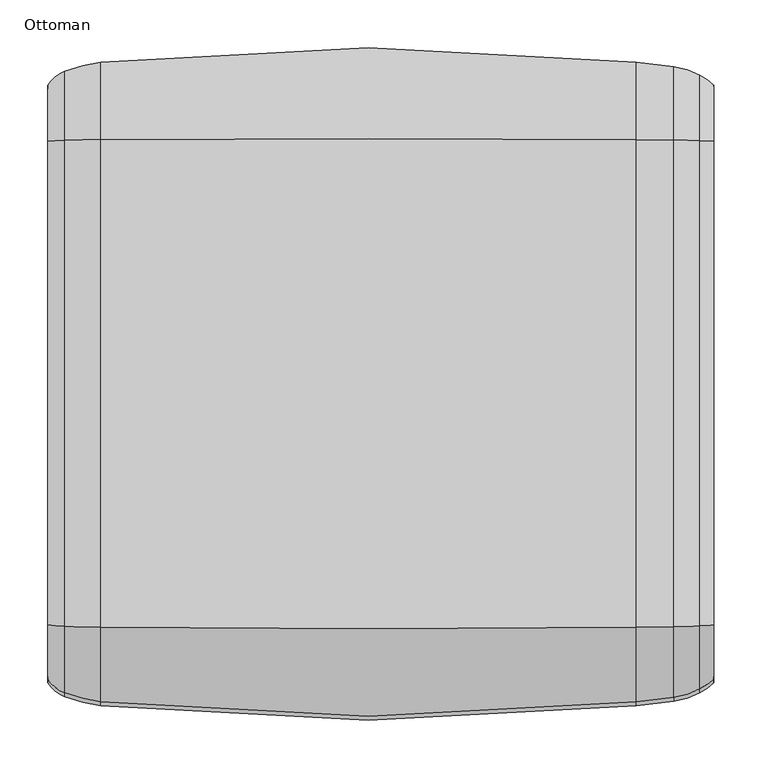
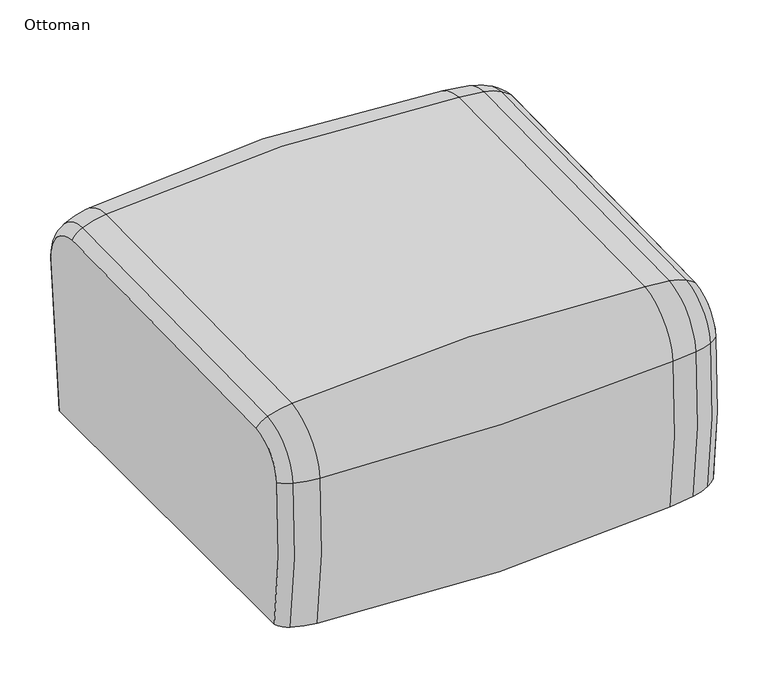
"""IFC4 building model written with IfcOpenShell, lengths in millimetres: furniture geometry, Steelcase Turnstone - Jenny - Seating - Ottoman : Ottoman."""

from ifc_helpers import new_model, si_unit, point, frame, frame_2d, origin, place, context, project, spatial, polyline, circle_curve, ellipse_curve, trimmed, segment, composite_curve, outline, extrude, source, transform, mapped, element, save
from ifc_brep_helpers import plane_surface, revolved_surface, advanced_brep


def ottoman_80099246(model_context):
    return source(origin(), model_context, "Body", "SolidModel", [
        advanced_brep(
        [(-347.3180471, -60.1907076, 90.6970288), (-329.563756, -45.991625, 87.8918056), (-291.9793541, -37.0676597, 86.1287541), (266.8206459, -37.0676597, 86.1287541), (305.9900436, -41.5637741, 87.017023), (333.6398842, -50.3538791, 88.7536286), (347.8818598, -60.1907076, 90.6970288), (347.8818598, -36.4263688, 334.1705603), (-347.3180471, -36.4263688, 334.1705603), (-347.3180471, -649.0439931, 90.6970288), (347.8818598, -649.0439931, 90.6970288), (333.6398842, -658.9394075, 89.0781488), (305.9900436, -667.7818644, 87.6315317), (266.8206459, -672.3047566, 86.8915911), (-291.9793541, -672.3047566, 86.8915911), (-329.563756, -663.3276423, 88.360238), (347.8818598, -656.7737079, 332.4647237), (-347.3180471, -656.7737079, 332.4647237), (347.8818598, -600.2503713, 389.3851276), (-347.3180471, -600.2503713, 389.3851276), (333.6398842, -666.7523238, 333.4481979), (305.9900436, -675.6691289, 334.3270219), (266.8206459, -680.2300501, 334.7765379), (-291.9793541, -680.2300501, 334.7765379), (-329.563756, -671.1774553, 333.8843307), (333.6398842, -601.3036733, 399.3566146), (305.9900436, -602.2448949, 408.2670493), (266.8206459, -602.7263272, 412.824712), (-291.9793541, -602.7263272, 412.824712), (-329.563756, -601.7707722, 403.7785846), (347.8818598, -95.2812287, 397.4713881), (-347.3180471, -95.2812287, 397.4713881), (333.6398842, -94.5477392, 407.4714876), (305.9900436, -93.8922993, 416.4074902), (266.8206459, -93.5570436, 420.9782309), (-291.9793541, -93.5570436, 420.9782309), (-329.563756, -94.2224648, 411.9061462), (333.6398842, -26.3994063, 334.1751466), (305.9900436, -17.4393991, 334.1792448), (266.8206459, -12.8563802, 334.1813411), (-291.9793541, -12.8563802, 334.1813411), (-329.563756, -21.952835, 334.1771804)],
        [
            (0, 1, circle_curve(frame((-316.4440877, -79.5623982, 94.5241715), z_axis=(0.0, -0.1938174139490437, -0.9810376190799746), x_axis=(1.0, 0.0, 0.0)), 36.6484759)),
            (1, 2, circle_curve(frame((-275.6132426, -184.0408813, 115.1653263), z_axis=(0.0, -0.1938174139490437, -0.9810376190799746), x_axis=(1.0, 0.0, 0.0)), 150.7053416)),
            (2, 3, circle_curve(frame((-12.5793541, -2546.1742391, 581.8371133), z_axis=(0.0, -0.1938174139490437, -0.9810376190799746), x_axis=(1.0, 0.0, 0.0)), 2572.8208185)),
            (3, 4, circle_curve(frame((-12.5793541, -2546.1742391, 581.8371133), z_axis=(0.0, -0.1938174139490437, -0.9810376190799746), x_axis=(1.0, 0.0, 0.0)), 2572.8208185)),
            (4, 5, circle_curve(frame((296.4239795, -116.7727069, 101.8755774), z_axis=(0.0, -0.1938174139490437, -0.9810376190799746), x_axis=(1.0, 0.0, 0.0)), 77.2571666)),
            (5, 6, circle_curve(frame((295.7080051, -118.0504987, 102.1280227), z_axis=(0.0, -0.1938174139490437, -0.9810376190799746), x_axis=(1.0, 0.0, 0.0)), 78.7434707)),
            (6, 0),
            (6, 7, circle_curve(frame((347.8818598, -1289.6691714, 333.5973332), z_axis=(1.0, 0.0, 0.0), x_axis=(0.0, 0.9999998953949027, 0.00045739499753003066)), 1253.2429337)),
            (7, 8),
            (8, 0, circle_curve(frame((-347.3180471, -1289.6691714, 333.5973332), z_axis=(-1.0, 0.0, 0.0), x_axis=(0.0, 0.9999998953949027, 0.00045739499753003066)), 1253.2429337)),
            (9, 10),
            (10, 11, circle_curve(frame((295.7080051, -590.8396021, 100.219209), z_axis=(0.0, 0.1614526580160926, -0.9868804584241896), x_axis=(1.0, 0.0, 0.0)), 78.7434707)),
            (11, 12, circle_curve(frame((296.4239795, -592.1250041, 100.0089185), z_axis=(0.0, 0.1614526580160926, -0.9868804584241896), x_axis=(1.0, 0.0, 0.0)), 77.2571666)),
            (12, 13, circle_curve(frame((-12.5793541, 1851.745497, 499.8236934), z_axis=(0.0, 0.1614526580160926, -0.9868804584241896), x_axis=(1.0, 0.0, 0.0)), 2572.8208185)),
            (13, 14, circle_curve(frame((-12.5793541, 1851.745497, 499.8236934), z_axis=(0.0, 0.1614526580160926, -0.9868804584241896), x_axis=(1.0, 0.0, 0.0)), 2572.8208185)),
            (14, 15, circle_curve(frame((-275.6132426, -524.4561956, 111.0794681), z_axis=(0.0, 0.1614526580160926, -0.9868804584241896), x_axis=(1.0, 0.0, 0.0)), 150.7053416)),
            (15, 9, circle_curve(frame((-316.4440877, -629.5569291, 93.885093), z_axis=(0.0, 0.1614526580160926, -0.9868804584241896), x_axis=(1.0, 0.0, 0.0)), 36.6484759)),
            (16, 10, circle_curve(frame((347.8818598, 270.2742299, 241.0965725), z_axis=(1.0, 0.0, 0.0), x_axis=(0.0, -0.9868804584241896, -0.16145265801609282)), 931.5395955)),
            (9, 17, circle_curve(frame((-347.3180471, 270.2742299, 241.0965725), z_axis=(-1.0, 0.0, 0.0), x_axis=(0.0, -0.9868804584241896, -0.16145265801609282)), 931.5395955)),
            (17, 16),
            (18, 16, circle_curve(frame((347.8818598, -593.5798894, 326.2364564), z_axis=(1.0, 0.0, 0.0), x_axis=(0.0, -0.9951782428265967, 0.09808294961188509)), 63.5)),
            (17, 19, circle_curve(frame((-347.3180471, -593.5798894, 326.2364564), z_axis=(-1.0, 0.0, 0.0), x_axis=(0.0, -0.9951782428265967, 0.09808294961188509)), 63.5)),
            (19, 18),
            (20, 11, circle_curve(frame((333.6398842, 270.2742299, 241.0965725), z_axis=(1.0, 0.0, 0.0), x_axis=(0.0, -0.9868804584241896, -0.16145265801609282)), 941.566559)),
            (16, 20, circle_curve(frame((295.7080051, -598.0799288, 326.6799721), z_axis=(0.0, -0.09808294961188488, -0.9951782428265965), x_axis=(1.0, 0.0, 0.0)), 78.7434707)),
            (21, 12, circle_curve(frame((305.9900436, 270.2742299, 241.0965725), z_axis=(1.0, 0.0, 0.0), x_axis=(0.0, -0.9868804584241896, -0.16145265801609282)), 950.5265671)),
            (20, 21, circle_curve(frame((296.4239795, -599.3761386, 326.8077241), z_axis=(0.0, -0.09808294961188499, -0.9951782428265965), x_axis=(1.0, 0.0, 0.0)), 77.2571666)),
            (22, 13, circle_curve(frame((266.8206459, 270.2742299, 241.0965725), z_axis=(1.0, 0.0, 0.0), x_axis=(0.0, -0.9868804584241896, -0.16145265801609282)), 955.1095865)),
            (21, 22, circle_curve(frame((-12.5793541, 1865.0426573, 83.9191096), z_axis=(0.0, -0.09808294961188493, -0.9951782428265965), x_axis=(1.0, 0.0, 0.0)), 2572.8208185)),
            (23, 14, circle_curve(frame((-291.9793541, 270.2742299, 241.0965725), z_axis=(1.0, 0.0, 0.0), x_axis=(0.0, -0.9868804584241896, -0.16145265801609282)), 955.1095865)),
            (22, 23, circle_curve(frame((-12.5793541, 1865.0426573, 83.9191096), z_axis=(0.0, -0.09808294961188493, -0.9951782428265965), x_axis=(1.0, 0.0, 0.0)), 2572.8208185)),
            (24, 15, circle_curve(frame((-329.563756, 270.2742299, 241.0965725), z_axis=(1.0, 0.0, 0.0), x_axis=(0.0, -0.9868804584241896, -0.16145265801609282)), 946.0131308)),
            (23, 24, circle_curve(frame((-275.6132426, -531.1383644, 320.0823338), z_axis=(0.0, -0.09808294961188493, -0.9951782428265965), x_axis=(1.0, 0.0, 0.0)), 150.7053416)),
            (24, 17, circle_curve(frame((-316.4440877, -637.1227947, 330.5279656), z_axis=(0.0, -0.09808294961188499, -0.9951782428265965), x_axis=(1.0, 0.0, 0.0)), 36.6484759)),
            (25, 20, circle_curve(frame((333.6398842, -593.5798894, 326.2364564), z_axis=(1.0, 0.0, 0.0), x_axis=(0.0, -0.9951782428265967, 0.09808294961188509)), 73.5269635)),
            (18, 25, circle_curve(frame((295.7080051, -594.0548953, 330.7332808), z_axis=(0.0, -0.9944672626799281, -0.10504695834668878), x_axis=(1.0000000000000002, 0.0, 0.0)), 78.7434707)),
            (26, 21, circle_curve(frame((305.9900436, -593.5798894, 326.2364564), z_axis=(1.0, 0.0, 0.0), x_axis=(0.0, -0.9951782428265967, 0.09808294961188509)), 82.4869716)),
            (25, 26, circle_curve(frame((296.4239795, -594.1917179, 332.0285646), z_axis=(0.0, -0.9944672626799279, -0.10504695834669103), x_axis=(1.0000000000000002, 0.0, 0.0)), 77.2571666)),
            (27, 22, circle_curve(frame((266.8206459, -593.5798894, 326.2364564), z_axis=(1.0, 0.0, 0.0), x_axis=(0.0, -0.9951782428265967, 0.09808294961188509)), 87.069991)),
            (26, 27, circle_curve(frame((-12.5793541, -334.0577163, -2130.6295891), z_axis=(0.0, -0.9944672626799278, -0.10504695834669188), x_axis=(1.0000000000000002, 0.0, 0.0)), 2572.8208185)),
            (28, 23, circle_curve(frame((-291.9793541, -593.5798894, 326.2364564), z_axis=(1.0, 0.0, 0.0), x_axis=(0.0, -0.9951782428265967, 0.09808294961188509)), 87.069991)),
            (27, 28, circle_curve(frame((-12.5793541, -334.0577163, -2130.6295891), z_axis=(0.0, -0.9944672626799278, -0.10504695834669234), x_axis=(1.0000000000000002, 0.0, 0.0)), 2572.8208185)),
            (29, 24, circle_curve(frame((-329.563756, -593.5798894, 326.2364564), z_axis=(1.0, 0.0, 0.0), x_axis=(0.0, -0.9951782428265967, 0.09808294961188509)), 77.9735353)),
            (28, 29, circle_curve(frame((-275.6132426, -586.9888166, 263.8395411), z_axis=(0.0, -0.9944672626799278, -0.1050469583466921), x_axis=(1.0000000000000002, 0.0, 0.0)), 150.7053416)),
            (29, 19, circle_curve(frame((-316.4440877, -598.176101, 369.7482536), z_axis=(0.0, -0.9944672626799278, -0.10504695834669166), x_axis=(1.0000000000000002, 0.0, 0.0)), 36.6484759)),
            (30, 18, circle_curve(frame((347.8818598, -302.5743357, -2428.6790689), z_axis=(1.0, 0.0, 0.0), x_axis=(0.0, -0.1050469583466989, 0.994467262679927)), 2833.7425497)),
            (19, 31, circle_curve(frame((-347.3180471, -302.5743357, -2428.6790689), z_axis=(-1.0, 0.0, 0.0), x_axis=(0.0, -0.1050469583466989, 0.994467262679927)), 2833.7425497)),
            (31, 30),
            (32, 25, circle_curve(frame((333.6398842, -302.5743357, -2428.6790689), z_axis=(1.0, 0.0, 0.0), x_axis=(0.0, -0.1050469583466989, 0.994467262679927)), 2843.7695132)),
            (30, 32, circle_curve(frame((295.7080051, -99.5955816, 338.6512434), z_axis=(0.0, -0.9973208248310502, 0.07315170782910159), x_axis=(1.0000000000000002, 0.0, 0.0)), 78.7434707)),
            (33, 26, circle_curve(frame((305.9900436, -302.5743357, -2428.6790689), z_axis=(1.0, 0.0, 0.0), x_axis=(0.0, -0.1050469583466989, 0.994467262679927)), 2852.7295213)),
            (32, 33, circle_curve(frame((296.4239795, -99.5003022, 339.950244), z_axis=(0.0, -0.9973208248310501, 0.07315170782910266), x_axis=(1.0000000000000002, 0.0, 0.0)), 77.2571666)),
            (34, 27, circle_curve(frame((266.8206459, -302.5743357, -2428.6790689), z_axis=(1.0, 0.0, 0.0), x_axis=(0.0, -0.1050469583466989, 0.994467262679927)), 2857.3125407)),
            (33, 34, circle_curve(frame((-12.5793541, -280.6502068, -2129.7743546), z_axis=(0.0, -0.9973208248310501, 0.07315170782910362), x_axis=(1.0000000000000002, 0.0, 0.0)), 2572.8208185)),
            (35, 28, circle_curve(frame((-291.9793541, -302.5743357, -2428.6790689), z_axis=(1.0, 0.0, 0.0), x_axis=(0.0, -0.1050469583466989, 0.994467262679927)), 2857.3125407)),
            (34, 35, circle_curve(frame((-12.5793541, -280.6502068, -2129.7743546), z_axis=(0.0, -0.99732082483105, 0.0731517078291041), x_axis=(1.0000000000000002, 0.0, 0.0)), 2572.8208185)),
            (36, 29, circle_curve(frame((-329.563756, -302.5743357, -2428.6790689), z_axis=(1.0, 0.0, 0.0), x_axis=(0.0, -0.1050469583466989, 0.994467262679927)), 2848.2160849)),
            (35, 36, circle_curve(frame((-275.6132426, -104.5161974, 271.5655563), z_axis=(0.0, -0.99732082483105, 0.07315170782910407), x_axis=(1.0000000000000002, 0.0, 0.0)), 150.7053416)),
            (36, 31, circle_curve(frame((-316.4440877, -96.7256914, 377.7781673), z_axis=(0.0, -0.99732082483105, 0.07315170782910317), x_axis=(1.0000000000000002, 0.0, 0.0)), 36.6484759)),
            (7, 30, circle_curve(frame((347.8818598, -99.9263621, 334.1415157), z_axis=(1.0, 0.0, 0.0), x_axis=(0.0, 0.0731517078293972, 0.9973208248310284)), 63.5)),
            (31, 8, circle_curve(frame((-347.3180471, -99.9263621, 334.1415157), z_axis=(-1.0, 0.0, 0.0), x_axis=(0.0, 0.0731517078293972, 0.9973208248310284)), 63.5)),
            (37, 32, circle_curve(frame((333.6398842, -99.9263621, 334.1415157), z_axis=(1.0, 0.0, 0.0), x_axis=(0.0, 0.0731517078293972, 0.9973208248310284)), 73.5269635)),
            (7, 37, circle_curve(frame((295.7080051, -95.40452, 334.143584), z_axis=(0.0, -0.00045739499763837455, 0.9999998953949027), x_axis=(1.0000000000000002, 0.0, 0.0)), 78.7434707)),
            (38, 33, circle_curve(frame((305.9900436, -99.9263621, 334.1415157), z_axis=(1.0, 0.0, 0.0), x_axis=(0.0, 0.0731517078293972, 0.9973208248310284)), 82.4869716)),
            (37, 38, circle_curve(frame((296.4239795, -94.10203, 334.1441797), z_axis=(0.0, -0.0004573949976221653, 0.9999998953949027), x_axis=(1.0000000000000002, 0.0, 0.0)), 77.2571666)),
            (39, 34, circle_curve(frame((266.8206459, -99.9263621, 334.1415157), z_axis=(1.0, 0.0, 0.0), x_axis=(0.0, 0.0731517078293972, 0.9973208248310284)), 87.069991)),
            (38, 39, circle_curve(frame((-12.5793541, -2570.4609696, 333.0115054), z_axis=(0.0, -0.00045739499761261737, 0.9999998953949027), x_axis=(1.0000000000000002, 0.0, 0.0)), 2572.8208185)),
            (40, 35, circle_curve(frame((-291.9793541, -99.9263621, 334.1415157), z_axis=(1.0, 0.0, 0.0), x_axis=(0.0, 0.0731517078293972, 0.9973208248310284)), 87.069991)),
            (39, 40, circle_curve(frame((-12.5793541, -2570.4609696, 333.0115054), z_axis=(0.0, -0.00045739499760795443, 0.9999998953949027), x_axis=(1.0000000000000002, 0.0, 0.0)), 2572.8208185)),
            (41, 36, circle_curve(frame((-329.563756, -99.9263621, 334.1415157), z_axis=(1.0, 0.0, 0.0), x_axis=(0.0, 0.0731517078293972, 0.9973208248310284)), 77.9735353)),
            (40, 41, circle_curve(frame((-275.6132426, -162.6704173, 334.1128169), z_axis=(0.0, -0.00045739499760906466, 0.9999998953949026), x_axis=(1.0000000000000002, 0.0, 0.0)), 150.7053416)),
            (41, 8, circle_curve(frame((-316.4440877, -56.1724908, 334.1615285), z_axis=(0.0, -0.0004573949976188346, 0.9999998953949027), x_axis=(1.0000000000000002, 0.0, 0.0)), 36.6484759)),
            (5, 37, circle_curve(frame((333.6398842, -1289.6691714, 333.5973332), z_axis=(1.0, 0.0, 0.0), x_axis=(0.0, 0.9999998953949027, 0.00045739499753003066)), 1263.2698973)),
            (4, 38, circle_curve(frame((305.9900436, -1289.6691714, 333.5973332), z_axis=(1.0, 0.0, 0.0), x_axis=(0.0, 0.9999998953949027, 0.00045739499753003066)), 1272.2299053)),
            (3, 39, circle_curve(frame((266.8206459, -1289.6691714, 333.5973332), z_axis=(1.0, 0.0, 0.0), x_axis=(0.0, 0.9999998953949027, 0.00045739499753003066)), 1276.8129247)),
            (2, 40, circle_curve(frame((-291.9793541, -1289.6691714, 333.5973332), z_axis=(1.0, 0.0, 0.0), x_axis=(0.0, 0.9999998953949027, 0.00045739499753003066)), 1276.8129247)),
            (1, 41, circle_curve(frame((-329.563756, -1289.6691714, 333.5973332), z_axis=(1.0, 0.0, 0.0), x_axis=(0.0, 0.9999998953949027, 0.00045739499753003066)), 1267.716469)),
        ],
        [
            plane_surface(frame((0.0, -60.1907076, 90.6970288), z_axis=(0.0, -0.1938174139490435, -0.9810376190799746), x_axis=(1.0, 0.0, 0.0))),
            revolved_surface(polyline([(-347.3180471, -36.426368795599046, 334.17056024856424), (347.8818598, -36.426368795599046, 334.17056024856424)]), (0.0, -1289.6691714, 333.5973332), (-1.0, 0.0, 0.0)),
            plane_surface(frame((0.0, -649.0439931, 90.6970288), z_axis=(0.0, 0.1614526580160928, -0.9868804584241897), x_axis=(1.0, 0.0, 0.0))),
            revolved_surface(polyline([(-347.3180471, -649.0439931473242, 90.69702875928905), (347.8818598, -649.0439931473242, 90.69702875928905)]), (0.0, 270.2742299, 241.0965725), (-1.0, 0.0, 0.0)),
            revolved_surface(polyline([(-347.3180471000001, -656.7737078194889, 332.46472370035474), (347.8818598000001, -656.7737078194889, 332.46472370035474)]), (0.0, -593.5798894, 326.2364564), (-1.0000000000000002, 0.0, 0.0)),
            revolved_surface(trimmed(ellipse_curve(frame((295.7080051, -590.8396021, 100.219209), z_axis=(0.0, 0.1614526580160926, -0.9868804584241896), x_axis=(1.0, 0.0, 0.0)), 78.7434707, 78.7434707), [point((347.8818598, -649.0439931, 90.6970288))], [point((333.6398842, -658.9394075, 89.0781488))], True, "CARTESIAN"), (0.0, 270.2742299, 241.0965725), (-1.0, 0.0, 0.0)),
            revolved_surface(trimmed(ellipse_curve(frame((296.4239795, -592.1250041, 100.0089185), z_axis=(0.0, 0.1614526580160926, -0.9868804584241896), x_axis=(1.0, 0.0, 0.0)), 77.2571666, 77.2571666), [point((333.6398842, -658.9394075, 89.0781488))], [point((305.9900436, -667.7818644, 87.6315317))], True, "CARTESIAN"), (0.0, 270.2742299, 241.0965725), (-1.0, 0.0, 0.0)),
            revolved_surface(trimmed(ellipse_curve(frame((-12.5793541, 1851.745497, 499.8236934), z_axis=(0.0, 0.1614526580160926, -0.9868804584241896), x_axis=(1.0, 0.0, 0.0)), 2572.8208185, 2572.8208185), [point((305.9900436, -667.7818644, 87.6315317))], [point((266.8206459, -672.3047566, 86.8915911))], True, "CARTESIAN"), (0.0, 270.2742299, 241.0965725), (-1.0, 0.0, 0.0)),
            revolved_surface(trimmed(ellipse_curve(frame((-12.5793541, 1851.745497, 499.8236934), z_axis=(0.0, 0.1614526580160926, -0.9868804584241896), x_axis=(1.0, 0.0, 0.0)), 2572.8208185, 2572.8208185), [point((266.8206459, -672.3047566, 86.8915911))], [point((-291.9793541, -672.3047566, 86.8915911))], True, "CARTESIAN"), (0.0, 270.2742299, 241.0965725), (-1.0, 0.0, 0.0)),
            revolved_surface(trimmed(ellipse_curve(frame((-275.6132426, -524.4561956, 111.0794681), z_axis=(0.0, 0.1614526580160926, -0.9868804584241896), x_axis=(1.0, 0.0, 0.0)), 150.7053416, 150.7053416), [point((-291.9793541, -672.3047566, 86.8915911))], [point((-329.563756, -663.3276423, 88.360238))], True, "CARTESIAN"), (0.0, 270.2742299, 241.0965725), (-1.0, 0.0, 0.0)),
            revolved_surface(trimmed(ellipse_curve(frame((-316.4440877, -629.5569291, 93.885093), z_axis=(0.0, 0.1614526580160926, -0.9868804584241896), x_axis=(1.0, 0.0, 0.0)), 36.6484759, 36.6484759), [point((-329.563756, -663.3276423, 88.360238))], [point((-347.3180471, -649.0439931, 90.6970288))], True, "CARTESIAN"), (0.0, 270.2742299, 241.0965725), (-1.0, 0.0, 0.0)),
            revolved_surface(trimmed(ellipse_curve(frame((295.7080051, -598.0799288, 326.6799721), z_axis=(0.0, -0.09808294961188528, -0.995178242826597), x_axis=(1.0000000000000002, 0.0, 0.0)), 78.7434707, 78.7434707), [point((347.8818598, -656.7737079, 332.4647237))], [point((333.6398842, -666.7523238, 333.4481979))], True, "CARTESIAN"), (0.0, -593.5798894, 326.2364564), (-1.0000000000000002, 0.0, 0.0)),
            revolved_surface(trimmed(ellipse_curve(frame((296.4239795, -599.3761386, 326.8077241), z_axis=(0.0, -0.09808294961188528, -0.995178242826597), x_axis=(1.0000000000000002, 0.0, 0.0)), 77.2571666, 77.2571666), [point((333.6398842, -666.7523238, 333.4481979))], [point((305.9900436, -675.6691289, 334.3270219))], True, "CARTESIAN"), (0.0, -593.5798894, 326.2364564), (-1.0000000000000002, 0.0, 0.0)),
            revolved_surface(trimmed(ellipse_curve(frame((-12.5793541, 1865.0426573, 83.9191096), z_axis=(0.0, -0.09808294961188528, -0.995178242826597), x_axis=(1.0000000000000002, 0.0, 0.0)), 2572.8208185, 2572.8208185), [point((305.9900436, -675.6691289, 334.3270219))], [point((266.8206459, -680.2300501, 334.7765379))], True, "CARTESIAN"), (0.0, -593.5798894, 326.2364564), (-1.0000000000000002, 0.0, 0.0)),
            revolved_surface(trimmed(ellipse_curve(frame((-12.5793541, 1865.0426573, 83.9191096), z_axis=(0.0, -0.09808294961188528, -0.995178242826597), x_axis=(1.0000000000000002, 0.0, 0.0)), 2572.8208185, 2572.8208185), [point((266.8206459, -680.2300501, 334.7765379))], [point((-291.9793541, -680.2300501, 334.7765379))], True, "CARTESIAN"), (0.0, -593.5798894, 326.2364564), (-1.0000000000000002, 0.0, 0.0)),
            revolved_surface(trimmed(ellipse_curve(frame((-275.6132426, -531.1383644, 320.0823338), z_axis=(0.0, -0.09808294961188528, -0.995178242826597), x_axis=(1.0000000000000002, 0.0, 0.0)), 150.7053416, 150.7053416), [point((-291.9793541, -680.2300501, 334.7765379))], [point((-329.563756, -671.1774553, 333.8843307))], True, "CARTESIAN"), (0.0, -593.5798894, 326.2364564), (-1.0000000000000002, 0.0, 0.0)),
            revolved_surface(trimmed(ellipse_curve(frame((-316.4440877, -637.1227947, 330.5279656), z_axis=(0.0, -0.09808294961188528, -0.995178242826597), x_axis=(1.0000000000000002, 0.0, 0.0)), 36.6484759, 36.6484759), [point((-329.563756, -671.1774553, 333.8843307))], [point((-347.3180471, -656.7737079, 332.4647237))], True, "CARTESIAN"), (0.0, -593.5798894, 326.2364564), (-1.0000000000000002, 0.0, 0.0)),
            revolved_surface(polyline([(-347.3180471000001, -600.2503712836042, 389.3851276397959), (347.8818598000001, -600.2503712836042, 389.3851276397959)]), (0.0, -302.5743357, -2428.6790689), (-1.0000000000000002, 0.0, 0.0)),
            revolved_surface(trimmed(ellipse_curve(frame((295.7080051, -594.0548953, 330.7332808), z_axis=(0.0, -0.9944672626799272, -0.1050469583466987), x_axis=(1.0000000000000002, 0.0, 0.0)), 78.7434707, 78.7434707), [point((347.8818598, -600.2503713, 389.3851276))], [point((333.6398842, -601.3036733, 399.3566146))], True, "CARTESIAN"), (0.0, -302.5743357, -2428.6790689), (-1.0000000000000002, 0.0, 0.0)),
            revolved_surface(trimmed(ellipse_curve(frame((296.4239795, -594.1917179, 332.0285646), z_axis=(0.0, -0.9944672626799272, -0.1050469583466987), x_axis=(1.0000000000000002, 0.0, 0.0)), 77.2571666, 77.2571666), [point((333.6398842, -601.3036733, 399.3566146))], [point((305.9900436, -602.2448949, 408.2670493))], True, "CARTESIAN"), (0.0, -302.5743357, -2428.6790689), (-1.0000000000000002, 0.0, 0.0)),
            revolved_surface(trimmed(ellipse_curve(frame((-12.5793541, -334.0577163, -2130.6295891), z_axis=(0.0, -0.9944672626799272, -0.1050469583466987), x_axis=(1.0000000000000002, 0.0, 0.0)), 2572.8208185, 2572.8208185), [point((305.9900436, -602.2448949, 408.2670493))], [point((266.8206459, -602.7263272, 412.824712))], True, "CARTESIAN"), (0.0, -302.5743357, -2428.6790689), (-1.0000000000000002, 0.0, 0.0)),
            revolved_surface(trimmed(ellipse_curve(frame((-12.5793541, -334.0577163, -2130.6295891), z_axis=(0.0, -0.9944672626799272, -0.1050469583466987), x_axis=(1.0000000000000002, 0.0, 0.0)), 2572.8208185, 2572.8208185), [point((266.8206459, -602.7263272, 412.824712))], [point((-291.9793541, -602.7263272, 412.824712))], True, "CARTESIAN"), (0.0, -302.5743357, -2428.6790689), (-1.0000000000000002, 0.0, 0.0)),
            revolved_surface(trimmed(ellipse_curve(frame((-275.6132426, -586.9888166, 263.8395411), z_axis=(0.0, -0.9944672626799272, -0.1050469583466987), x_axis=(1.0000000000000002, 0.0, 0.0)), 150.7053416, 150.7053416), [point((-291.9793541, -602.7263272, 412.824712))], [point((-329.563756, -601.7707722, 403.7785846))], True, "CARTESIAN"), (0.0, -302.5743357, -2428.6790689), (-1.0000000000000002, 0.0, 0.0)),
            revolved_surface(trimmed(ellipse_curve(frame((-316.4440877, -598.176101, 369.7482536), z_axis=(0.0, -0.9944672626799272, -0.1050469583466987), x_axis=(1.0000000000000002, 0.0, 0.0)), 36.6484759, 36.6484759), [point((-329.563756, -601.7707722, 403.7785846))], [point((-347.3180471, -600.2503713, 389.3851276))], True, "CARTESIAN"), (0.0, -302.5743357, -2428.6790689), (-1.0000000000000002, 0.0, 0.0)),
            revolved_surface(polyline([(-347.3180471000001, -95.28122865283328, 397.4713880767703), (347.8818598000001, -95.28122865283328, 397.4713880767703)]), (0.0, -99.9263621, 334.1415157), (-1.0000000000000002, 0.0, 0.0)),
            revolved_surface(trimmed(ellipse_curve(frame((295.7080051, -99.5955816, 338.6512434), z_axis=(0.0, -0.9973208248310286, 0.07315170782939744), x_axis=(1.0000000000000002, 0.0, 0.0)), 78.7434707, 78.7434707), [point((347.8818598, -95.2812287, 397.4713881))], [point((333.6398842, -94.5477392, 407.4714876))], True, "CARTESIAN"), (0.0, -99.9263621, 334.1415157), (-1.0000000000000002, 0.0, 0.0)),
            revolved_surface(trimmed(ellipse_curve(frame((296.4239795, -99.5003022, 339.950244), z_axis=(0.0, -0.9973208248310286, 0.07315170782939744), x_axis=(1.0000000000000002, 0.0, 0.0)), 77.2571666, 77.2571666), [point((333.6398842, -94.5477392, 407.4714876))], [point((305.9900436, -93.8922993, 416.4074902))], True, "CARTESIAN"), (0.0, -99.9263621, 334.1415157), (-1.0000000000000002, 0.0, 0.0)),
            revolved_surface(trimmed(ellipse_curve(frame((-12.5793541, -280.6502068, -2129.7743546), z_axis=(0.0, -0.9973208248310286, 0.07315170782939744), x_axis=(1.0000000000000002, 0.0, 0.0)), 2572.8208185, 2572.8208185), [point((305.9900436, -93.8922993, 416.4074902))], [point((266.8206459, -93.5570436, 420.9782309))], True, "CARTESIAN"), (0.0, -99.9263621, 334.1415157), (-1.0000000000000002, 0.0, 0.0)),
            revolved_surface(trimmed(ellipse_curve(frame((-12.5793541, -280.6502068, -2129.7743546), z_axis=(0.0, -0.9973208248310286, 0.07315170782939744), x_axis=(1.0000000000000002, 0.0, 0.0)), 2572.8208185, 2572.8208185), [point((266.8206459, -93.5570436, 420.9782309))], [point((-291.9793541, -93.5570436, 420.9782309))], True, "CARTESIAN"), (0.0, -99.9263621, 334.1415157), (-1.0000000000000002, 0.0, 0.0)),
            revolved_surface(trimmed(ellipse_curve(frame((-275.6132426, -104.5161974, 271.5655563), z_axis=(0.0, -0.9973208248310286, 0.07315170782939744), x_axis=(1.0000000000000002, 0.0, 0.0)), 150.7053416, 150.7053416), [point((-291.9793541, -93.5570436, 420.9782309))], [point((-329.563756, -94.2224648, 411.9061462))], True, "CARTESIAN"), (0.0, -99.9263621, 334.1415157), (-1.0000000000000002, 0.0, 0.0)),
            revolved_surface(trimmed(ellipse_curve(frame((-316.4440877, -96.7256914, 377.7781673), z_axis=(0.0, -0.9973208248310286, 0.07315170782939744), x_axis=(1.0000000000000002, 0.0, 0.0)), 36.6484759, 36.6484759), [point((-329.563756, -94.2224648, 411.9061462))], [point((-347.3180471, -95.2812287, 397.4713881))], True, "CARTESIAN"), (0.0, -99.9263621, 334.1415157), (-1.0000000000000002, 0.0, 0.0)),
            revolved_surface(trimmed(ellipse_curve(frame((295.7080051, -95.40452, 334.143584), z_axis=(0.0, -0.0004573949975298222, 0.9999998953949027), x_axis=(1.0, 0.0, 0.0)), 78.7434707, 78.7434707), [point((347.8818598, -36.4263688, 334.1705603))], [point((333.6398842, -26.3994063, 334.1751466))], True, "CARTESIAN"), (0.0, -1289.6691714, 333.5973332), (-1.0, 0.0, 0.0)),
            revolved_surface(trimmed(ellipse_curve(frame((296.4239795, -94.10203, 334.1441797), z_axis=(0.0, -0.0004573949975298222, 0.9999998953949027), x_axis=(1.0, 0.0, 0.0)), 77.2571666, 77.2571666), [point((333.6398842, -26.3994063, 334.1751466))], [point((305.9900436, -17.4393991, 334.1792448))], True, "CARTESIAN"), (0.0, -1289.6691714, 333.5973332), (-1.0, 0.0, 0.0)),
            revolved_surface(trimmed(ellipse_curve(frame((-12.5793541, -2570.4609696, 333.0115054), z_axis=(0.0, -0.0004573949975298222, 0.9999998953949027), x_axis=(1.0, 0.0, 0.0)), 2572.8208185, 2572.8208185), [point((305.9900436, -17.4393991, 334.1792448))], [point((266.8206459, -12.8563802, 334.1813411))], True, "CARTESIAN"), (0.0, -1289.6691714, 333.5973332), (-1.0, 0.0, 0.0)),
            revolved_surface(trimmed(ellipse_curve(frame((-12.5793541, -2570.4609696, 333.0115054), z_axis=(0.0, -0.0004573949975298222, 0.9999998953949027), x_axis=(1.0, 0.0, 0.0)), 2572.8208185, 2572.8208185), [point((266.8206459, -12.8563802, 334.1813411))], [point((-291.9793541, -12.8563802, 334.1813411))], True, "CARTESIAN"), (0.0, -1289.6691714, 333.5973332), (-1.0, 0.0, 0.0)),
            revolved_surface(trimmed(ellipse_curve(frame((-275.6132426, -162.6704173, 334.1128169), z_axis=(0.0, -0.0004573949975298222, 0.9999998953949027), x_axis=(1.0, 0.0, 0.0)), 150.7053416, 150.7053416), [point((-291.9793541, -12.8563802, 334.1813411))], [point((-329.563756, -21.952835, 334.1771804))], True, "CARTESIAN"), (0.0, -1289.6691714, 333.5973332), (-1.0, 0.0, 0.0)),
            revolved_surface(trimmed(ellipse_curve(frame((-316.4440877, -56.1724908, 334.1615285), z_axis=(0.0, -0.0004573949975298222, 0.9999998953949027), x_axis=(1.0, 0.0, 0.0)), 36.6484759, 36.6484759), [point((-329.563756, -21.952835, 334.1771804))], [point((-347.3180471, -36.4263688, 334.1705603))], True, "CARTESIAN"), (0.0, -1289.6691714, 333.5973332), (-1.0, 0.0, 0.0)),
        ],
        [
            (0, [[1, 2, 3, 4, 5, 6, 7]]),
            (1, [[8, 9, 10, -7]]),
            (2, [[11, 12, 13, 14, 15, 16, 17]]),
            (3, [[18, -11, 19, 20]]),
            (4, [[21, -20, 22, 23]]),
            (5, [[24, -12, -18, 25]]),
            (6, [[26, -13, -24, 27]]),
            (7, [[28, -14, -26, 29]]),
            (8, [[30, -15, -28, 31]]),
            (9, [[32, -16, -30, 33]]),
            (10, [[-19, -17, -32, 34]]),
            (11, [[35, -25, -21, 36]]),
            (12, [[37, -27, -35, 38]]),
            (13, [[39, -29, -37, 40]]),
            (14, [[41, -31, -39, 42]]),
            (15, [[43, -33, -41, 44]]),
            (16, [[-22, -34, -43, 45]]),
            (17, [[46, -23, 47, 48]]),
            (18, [[49, -36, -46, 50]]),
            (19, [[51, -38, -49, 52]]),
            (20, [[53, -40, -51, 54]]),
            (21, [[55, -42, -53, 56]]),
            (22, [[57, -44, -55, 58]]),
            (23, [[-47, -45, -57, 59]]),
            (24, [[60, -48, 61, -9]]),
            (25, [[62, -50, -60, 63]]),
            (26, [[64, -52, -62, 65]]),
            (27, [[66, -54, -64, 67]]),
            (28, [[68, -56, -66, 69]]),
            (29, [[70, -58, -68, 71]]),
            (30, [[-61, -59, -70, 72]]),
            (31, [[73, -63, -8, -6]]),
            (32, [[74, -65, -73, -5]]),
            (33, [[75, -67, -74, -4]]),
            (34, [[76, -69, -75, -3]]),
            (35, [[77, -71, -76, -2]]),
            (36, [[-10, -72, -77, -1]]),
        ],
    ),
        extrude(outline(composite_curve([segment(trimmed(circle_curve(frame_2d((270.2742299, 241.0965725)), 931.5395955), [point((-649.0439931, 90.6970288))], [point((-656.7737079, 332.4647237))], False, "CARTESIAN"), True, "CONTINUOUS"), segment(trimmed(circle_curve(frame_2d((-593.5798894, 326.2364564)), 63.5), [point((-656.7737079, 332.4647237))], [point((-600.2503713, 389.3851276))], False, "CARTESIAN"), True, "CONTINUOUS"), segment(trimmed(circle_curve(frame_2d((-302.5743357, -2428.6790689)), 2833.7425497), [point((-600.2503713, 389.3851276))], [point((-95.2812287, 397.4713881))], False, "CARTESIAN"), True, "CONTINUOUS"), segment(trimmed(circle_curve(frame_2d((-99.9263621, 334.1415157)), 63.5), [point((-95.2812287, 397.4713881))], [point((-36.4263688, 334.1705603))], False, "CARTESIAN"), True, "CONTINUOUS"), segment(trimmed(circle_curve(frame_2d((-1289.6691714, 333.5973332)), 1253.2429337), [point((-36.4263688, 334.1705603))], [point((-60.1907076, 90.6970288))], False, "CARTESIAN"), True, "CONTINUOUS"), segment(polyline([(-60.1907076, 90.6970288), (-649.0439931, 90.6970288)]), True, "CONTINUOUS")], self_intersect=False)), frame((-347.3180471, 0.0, 0.0), z_axis=(1.0, 0.0, 0.0), x_axis=(0.0, 1.0, 0.0)), (0.0, 0.0, 1.0), 695.1999069),
    ])


if __name__ == "__main__":
    model = new_model("IFC4")
    model_context = context("Model", 3, world=origin())
    ifc_project = project(units=[si_unit("LENGTHUNIT", "METRE", prefix="MILLI")], contexts=[model_context])
    site = spatial("IfcSite", under=ifc_project)
    building = spatial("IfcBuilding", under=site)
    placement = place(None, origin())
    ottoman_shape = ottoman_80099246(model_context)
    element("IfcFurniture", 1, ObjectType="Steelcase Turnstone - Jenny - Seating - Ottoman : Ottoman", at=placement, inside=building, context=model_context, shape_type="MappedRepresentation", body=[
        mapped(ottoman_shape, transform((0.0, 0.0, 0.0), x_axis=(1.0, 0.0, 0.0), y_axis=(0.0, 1.0, 0.0), z_axis=(0.0, 0.0, 1.0))),
    ])
    save(model, "model.ifc")
